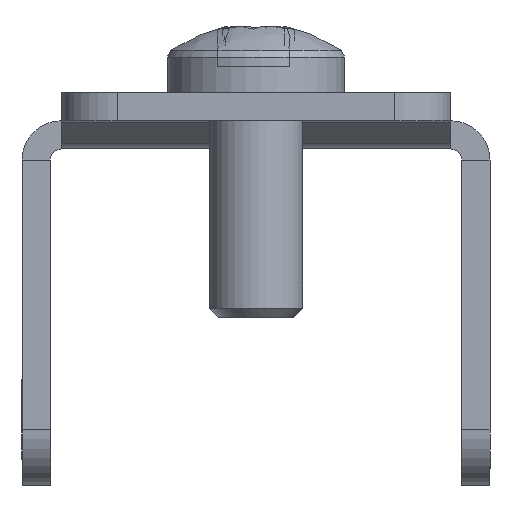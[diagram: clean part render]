
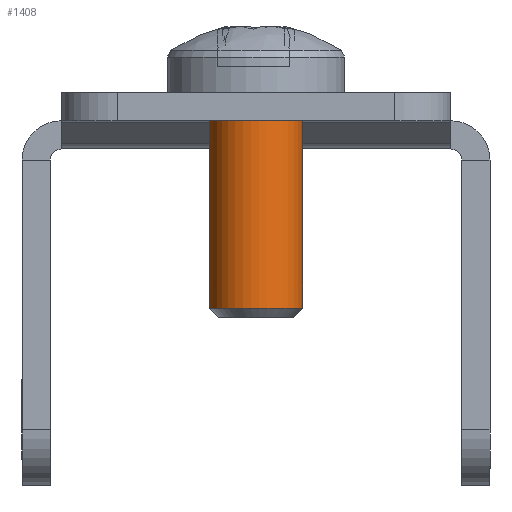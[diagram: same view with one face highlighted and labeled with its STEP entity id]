
A CAD part, front view. The second image highlights one B-rep face of the part: STEP entity #1408.
In plain terms, the highlighted cylindrical face has radius 2.5 mm (diameter 5 mm), a full revolution.
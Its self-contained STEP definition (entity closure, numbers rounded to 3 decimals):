
#50 = EDGE_LOOP ( 'NONE', ( #3695 ) ) ;
#92 = AXIS2_PLACEMENT_3D ( 'NONE', #728, #345, #2385 ) ;
#280 = DIRECTION ( 'NONE',  ( 0., 0., 1. ) ) ;
#303 = CYLINDRICAL_SURFACE ( 'NONE', #515, 2.5 ) ;
#343 = EDGE_LOOP ( 'NONE', ( #2033 ) ) ;
#345 = DIRECTION ( 'NONE',  ( -1., 0., 0. ) ) ;
#469 = EDGE_CURVE ( 'NONE', #658, #658, #767, .T. ) ;
#515 = AXIS2_PLACEMENT_3D ( 'NONE', #3010, #2333, #280 ) ;
#658 = VERTEX_POINT ( 'NONE', #2031 ) ;
#728 = CARTESIAN_POINT ( 'NONE',  ( 15.2, 0., 0. ) ) ;
#767 = CIRCLE ( 'NONE', #3350, 2.5 ) ;
#992 = DIRECTION ( 'NONE',  ( 0., 0., 1. ) ) ;
#1408 = ADVANCED_FACE ( 'NONE', ( #1655, #1635 ), #303, .T. ) ;
#1635 = FACE_OUTER_BOUND ( 'NONE', #50, .T. ) ;
#1655 = FACE_OUTER_BOUND ( 'NONE', #343, .T. ) ;
#1701 = CARTESIAN_POINT ( 'NONE',  ( 3.9, 0., 0. ) ) ;
#1723 = DIRECTION ( 'NONE',  ( 1., 0., 0. ) ) ;
#1752 = CIRCLE ( 'NONE', #92, 2.5 ) ;
#2031 = CARTESIAN_POINT ( 'NONE',  ( 3.9, 0., 2.5 ) ) ;
#2033 = ORIENTED_EDGE ( 'NONE', *, *, #2388, .T. ) ;
#2333 = DIRECTION ( 'NONE',  ( -1., 0., 0. ) ) ;
#2385 = DIRECTION ( 'NONE',  ( 0., 0., -1. ) ) ;
#2388 = EDGE_CURVE ( 'NONE', #2547, #2547, #1752, .T. ) ;
#2547 = VERTEX_POINT ( 'NONE', #3910 ) ;
#3010 = CARTESIAN_POINT ( 'NONE',  ( -25.4, 0., 0. ) ) ;
#3350 = AXIS2_PLACEMENT_3D ( 'NONE', #1701, #1723, #992 ) ;
#3695 = ORIENTED_EDGE ( 'NONE', *, *, #469, .T. ) ;
#3910 = CARTESIAN_POINT ( 'NONE',  ( 15.2, 0., -2.5 ) ) ;
